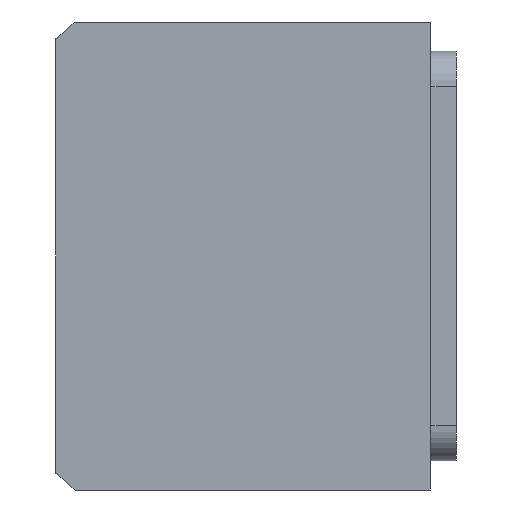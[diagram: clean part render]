
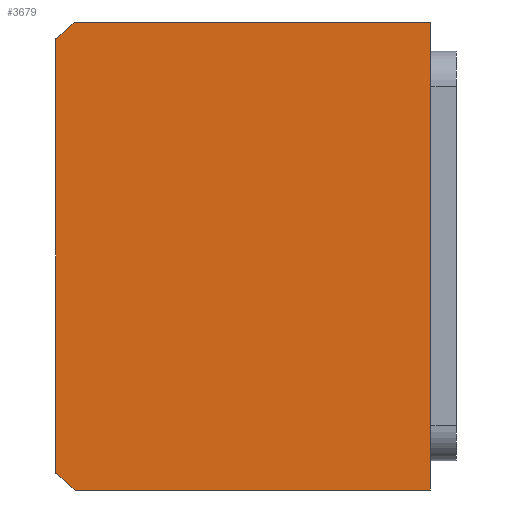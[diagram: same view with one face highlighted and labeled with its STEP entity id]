
A CAD part, front view. The second image highlights one B-rep face of the part: STEP entity #3679.
In plain terms, the highlighted planar face has unit normal (0, -1, 0).
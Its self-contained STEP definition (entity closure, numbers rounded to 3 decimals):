
#3348=PLANE('',#11931);
#3679=ADVANCED_FACE('',(#4187),#3348,.F.);
#4187=FACE_OUTER_BOUND('',#4629,.T.);
#4629=EDGE_LOOP('',(#7246,#7247,#7248,#7249,#7250,#7251));
#5177=LINE('',#14338,#6109);
#5201=LINE('',#14546,#6133);
#5211=LINE('',#14567,#6143);
#5227=LINE('',#14610,#6159);
#6109=VECTOR('',#12379,1.);
#6133=VECTOR('',#12463,1.);
#6143=VECTOR('',#12475,1.);
#6159=VECTOR('',#12509,1.);
#7246=ORIENTED_EDGE('',*,*,#10622,.F.);
#7247=ORIENTED_EDGE('',*,*,#10590,.F.);
#7248=ORIENTED_EDGE('',*,*,#10623,.F.);
#7249=ORIENTED_EDGE('',*,*,#10545,.F.);
#7250=ORIENTED_EDGE('',*,*,#10624,.F.);
#7251=ORIENTED_EDGE('',*,*,#10600,.F.);
#9674=VERTEX_POINT('',#14336);
#9676=VERTEX_POINT('',#14339);
#9719=VERTEX_POINT('',#14545);
#9720=VERTEX_POINT('',#14547);
#9728=VERTEX_POINT('',#14565);
#9730=VERTEX_POINT('',#14568);
#10545=EDGE_CURVE('',#9674,#9676,#5177,.T.);
#10590=EDGE_CURVE('',#9719,#9720,#5201,.T.);
#10600=EDGE_CURVE('',#9728,#9730,#5211,.T.);
#10622=EDGE_CURVE('',#9720,#9728,#11821,.T.);
#10623=EDGE_CURVE('',#9676,#9719,#5227,.T.);
#10624=EDGE_CURVE('',#9730,#9674,#11822,.T.);
#11821=CIRCLE('',#11929,51.);
#11822=CIRCLE('',#11930,51.);
#11929=AXIS2_PLACEMENT_3D('',#14609,#12507,#12508);
#11930=AXIS2_PLACEMENT_3D('',#14611,#12510,#12511);
#11931=AXIS2_PLACEMENT_3D('',#14612,#12512,#12513);
#12379=DIRECTION('',(1.,0.,0.));
#12463=DIRECTION('',(-1.,0.,0.));
#12475=DIRECTION('',(0.,0.,1.));
#12507=DIRECTION('',(0.,1.,0.));
#12508=DIRECTION('',(0.,0.,1.));
#12509=DIRECTION('',(0.,0.,-1.));
#12510=DIRECTION('',(0.,1.,0.));
#12511=DIRECTION('',(0.,0.,1.));
#12512=DIRECTION('',(0.,1.,0.));
#12513=DIRECTION('',(0.,0.,-1.));
#14336=CARTESIAN_POINT('',(-122.467,-0.642,40.));
#14338=CARTESIAN_POINT('',(-61.828,-0.642,40.));
#14339=CARTESIAN_POINT('',(-61.828,-0.642,40.));
#14545=CARTESIAN_POINT('',(-61.828,-0.642,-40.));
#14546=CARTESIAN_POINT('',(-61.828,-0.642,-40.));
#14547=CARTESIAN_POINT('',(-122.467,-0.642,-40.));
#14565=CARTESIAN_POINT('',(-125.828,-0.642,-37.094));
#14567=CARTESIAN_POINT('',(-125.828,-0.642,-40.));
#14568=CARTESIAN_POINT('',(-125.828,-0.642,37.094));
#14609=CARTESIAN_POINT('',(-90.828,-0.642,0.));
#14610=CARTESIAN_POINT('',(-61.828,-0.642,-40.));
#14611=CARTESIAN_POINT('',(-90.828,-0.642,0.));
#14612=CARTESIAN_POINT('',(-50.322,-0.642,0.));
